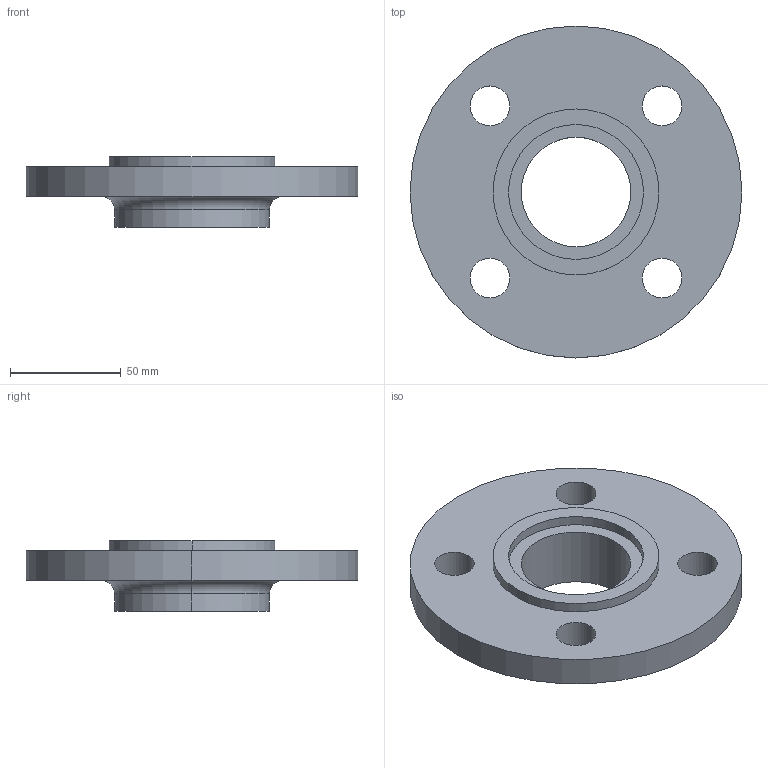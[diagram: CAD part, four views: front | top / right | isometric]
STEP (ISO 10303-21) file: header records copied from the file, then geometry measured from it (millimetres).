
FILE_DESCRIPTION (( 'STEP AP214' ), '1' );
FILE_NAME ('PN40 DN40 Type 12 - Type C Face.STEP', '2018-12-30T01:41:38', ( '' ), ( '' ), 'SwSTEP 2.0', 'SolidWorks 2019', '' );
FILE_SCHEMA (( 'AUTOMOTIVE_DESIGN' ));
Length unit declared in the file: millimetre
Products named in the file (1): PN40 DN40 Type 12 - Type C Face
Bounding box: 150 x 150 x 32 mm (x, y, z)
Volume: 234273.4 mm3; surface area: 47601.3 mm2
Topology: 1 solids, 1 shells, 25 faces, 58 edges, 38 vertices
Faces by surface type: cylinder 18, plane 5, torus 2
Entity records: 790 total; most frequent: DIRECTION 150, CARTESIAN_POINT 122, ORIENTED_EDGE 116, AXIS2_PLACEMENT_3D 66, EDGE_CURVE 58, CIRCLE 40, VERTEX_POINT 38, EDGE_LOOP 38
